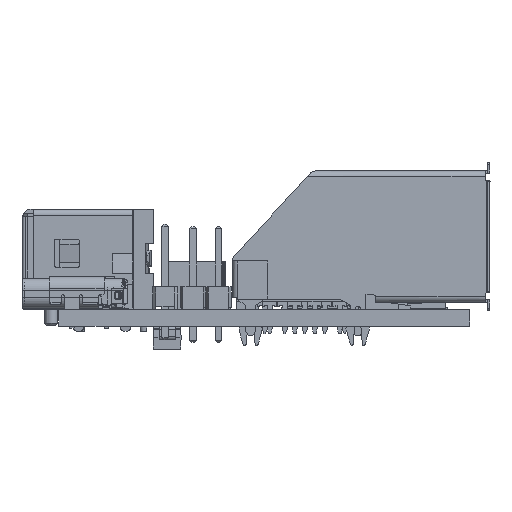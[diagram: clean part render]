
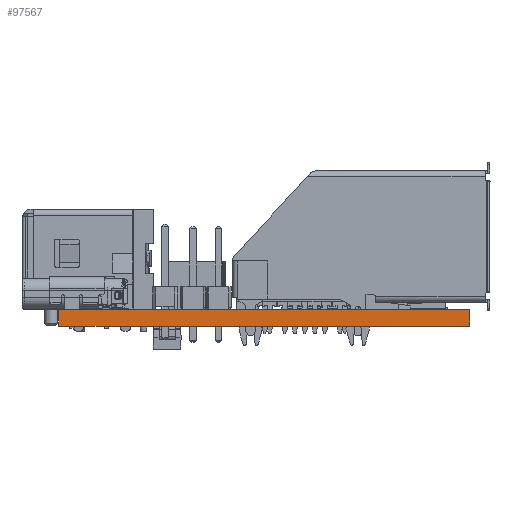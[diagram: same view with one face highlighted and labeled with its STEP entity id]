
A CAD part, front view. The second image highlights one B-rep face of the part: STEP entity #97567.
In plain terms, the highlighted planar face has unit normal (0, -1, 0).
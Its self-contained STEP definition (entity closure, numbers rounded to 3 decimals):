
#8396=FACE_OUTER_BOUND('',#13629,.T.);
#13629=EDGE_LOOP('',(#65334,#65335,#65336,#65337));
#19267=LINE('',#137651,#30710);
#19275=LINE('',#137667,#30718);
#19277=LINE('',#137670,#30720);
#19278=LINE('',#137671,#30721);
#30710=VECTOR('',#110852,1.);
#30718=VECTOR('',#110864,1.);
#30720=VECTOR('',#110868,1.);
#30721=VECTOR('',#110869,1.);
#42153=VERTEX_POINT('',#137649);
#42154=VERTEX_POINT('',#137650);
#42159=VERTEX_POINT('',#137664);
#42160=VERTEX_POINT('',#137666);
#51209=EDGE_CURVE('',#42153,#42154,#19267,.T.);
#51217=EDGE_CURVE('',#42160,#42159,#19275,.T.);
#51219=EDGE_CURVE('',#42159,#42154,#19277,.T.);
#51220=EDGE_CURVE('',#42160,#42153,#19278,.T.);
#65334=ORIENTED_EDGE('',*,*,#51217,.T.);
#65335=ORIENTED_EDGE('',*,*,#51219,.T.);
#65336=ORIENTED_EDGE('',*,*,#51209,.F.);
#65337=ORIENTED_EDGE('',*,*,#51220,.F.);
#93551=PLANE('',#103171);
#97567=ADVANCED_FACE('',(#8396),#93551,.T.);
#103171=AXIS2_PLACEMENT_3D('',#137669,#110866,#110867);
#110852=DIRECTION('',(0.,0.,1.));
#110864=DIRECTION('',(0.,0.,1.));
#110866=DIRECTION('center_axis',(0.,-1.,0.));
#110867=DIRECTION('ref_axis',(-1.,0.,0.));
#110868=DIRECTION('',(-1.,0.,0.));
#110869=DIRECTION('',(-1.,0.,0.));
#137649=CARTESIAN_POINT('',(-1.,0.,0.));
#137650=CARTESIAN_POINT('',(-1.,0.,1.645));
#137651=CARTESIAN_POINT('',(-1.,0.,0.));
#137664=CARTESIAN_POINT('',(40.,0.,1.645));
#137666=CARTESIAN_POINT('',(40.,0.,0.));
#137667=CARTESIAN_POINT('',(40.,0.,0.));
#137669=CARTESIAN_POINT('Origin',(40.,0.,0.));
#137670=CARTESIAN_POINT('',(40.,0.,1.645));
#137671=CARTESIAN_POINT('',(40.,0.,0.));
